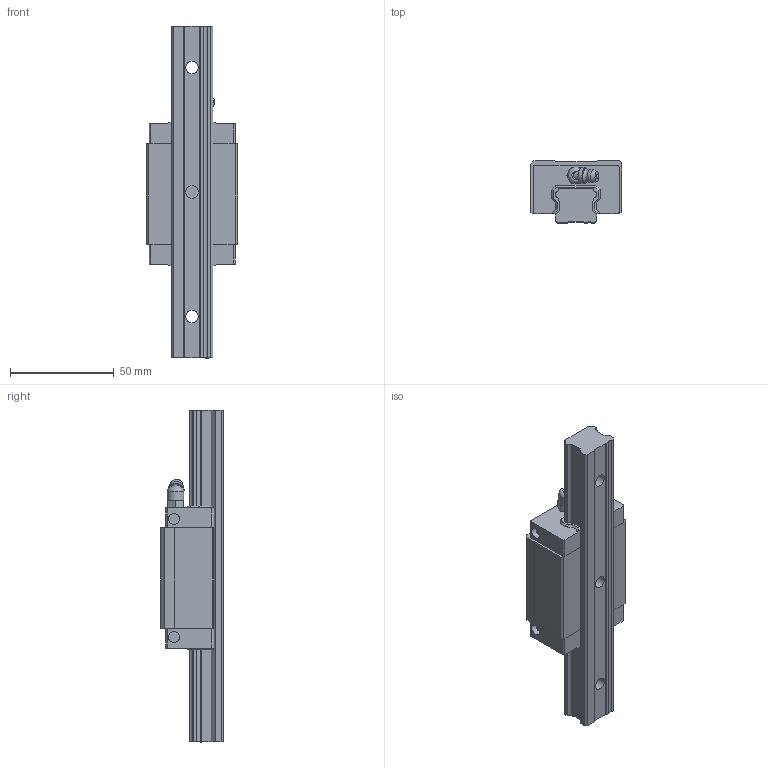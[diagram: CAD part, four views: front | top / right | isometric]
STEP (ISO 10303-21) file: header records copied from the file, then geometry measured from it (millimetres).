
FILE_DESCRIPTION((''),'2;1');
FILE_NAME('D:\製品 (図面)\カタログ用3D\変換ファイル\OZAK_3D-CAD(STEP形式)\Part2.-Linear Guides_ﾘﾆｱｶﾞｲﾄﾞ\07_Eco Guides_ｴｺｶﾞｲﾄﾞ\EGH\EGH20.stp','2010-12-22T11:11:40',('Tsuchiya'),(''),'Autodesk Inventor 10','Autodesk Inventor 10','');
FILE_SCHEMA(('AUTOMOTIVE_DESIGN { 1 0 10303 214 1 1 1 1 }'));
Length unit declared in the file: millimetre
Products named in the file (3): EGH20; EGH201; EGH202
Assembly tree (2 placements, depth 2):
  EGH20
    EGH201
    EGH202
Bounding box: 44 x 30 x 160 mm (x, y, z)
Volume: 101439.6 mm3; surface area: 27605.8 mm2
Topology: 2 solids, 3 shells, 262 faces, 682 edges, 441 vertices
Faces by surface type: plane 153, cylinder 77, cone 20, bspline 10, torus 1, sphere 1
Full cylindrical faces by diameter (mm): 4.4 x4, 5 x4, 5.3 x4, 6 x6, 7.75 x1, 8 x1, 9.5 x3
Entity records: 8010 total; most frequent: CARTESIAN_POINT 1630, DIRECTION 1313, ORIENTED_EDGE 1270, EDGE_CURVE 635, AXIS2_PLACEMENT_3D 446, VERTEX_POINT 430, VECTOR 421, LINE 421
